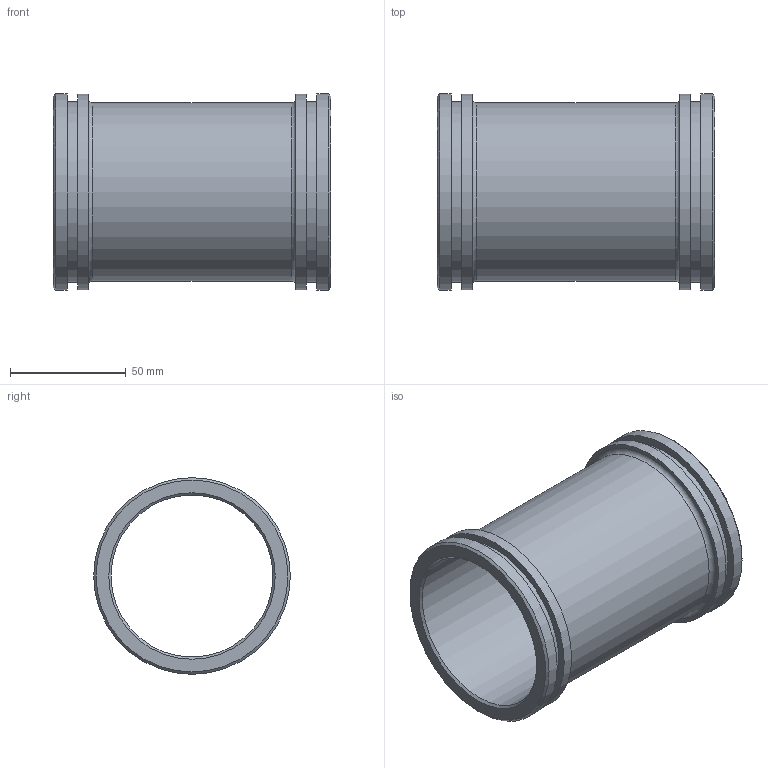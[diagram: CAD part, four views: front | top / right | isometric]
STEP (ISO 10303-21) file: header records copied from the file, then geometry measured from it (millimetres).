
FILE_DESCRIPTION(/* description */ ('Hülse für Kunden'),/* implementation_level */ '2;1');
FILE_NAME(/* name */ 'N:\CAD\ARCHIV\5350 (-999)\Standardhülsen\5350.070.120\Kundenteil 3D\5350.070.120 Kunden.stp',/* time_stamp */ '2014-08-25T12:16:46+02:00',/* author */ ('hwalkhoff'),/* organization */ (''),/* preprocessor_version */ 'ST-DEVELOPER v15.2',/* originating_system */ 'Autodesk Inventor 2014',/* authorisation */ '');
FILE_SCHEMA (('AUTOMOTIVE_DESIGN { 1 0 10303 214 3 1 1 }'));
Length unit declared in the file: millimetre
Products named in the file (1): Hülse für Kunden
Bounding box: 120 x 85 x 85 mm (x, y, z)
Volume: 118860 mm3; surface area: 64014.7 mm2
Topology: 1 solids, 1 shells, 22 faces, 36 edges, 22 vertices
Faces by surface type: plane 8, cylinder 8, cone 4, torus 2
Full cylindrical faces by diameter (mm): 70 x1, 77 x1, 77.94 x2, 84.5 x2, 85 x2
Entity records: 469 total; most frequent: DIRECTION 90, CARTESIAN_POINT 67, AXIS2_PLACEMENT_3D 45, EDGE_LOOP 44, ORIENTED_EDGE 44, FACE_BOUND 27, CIRCLE 22, VERTEX_POINT 22
